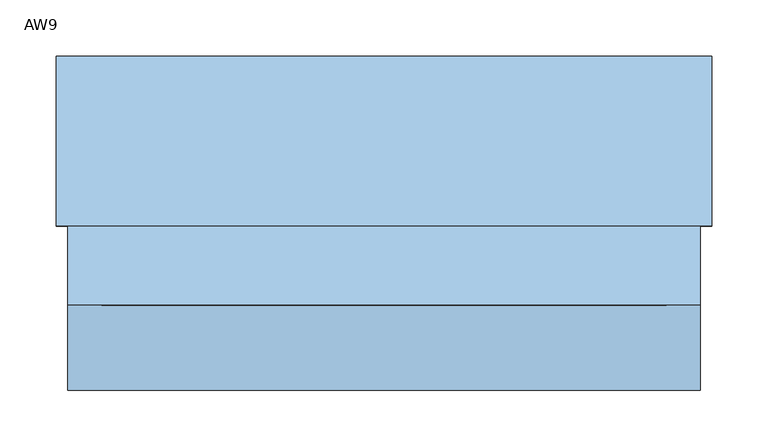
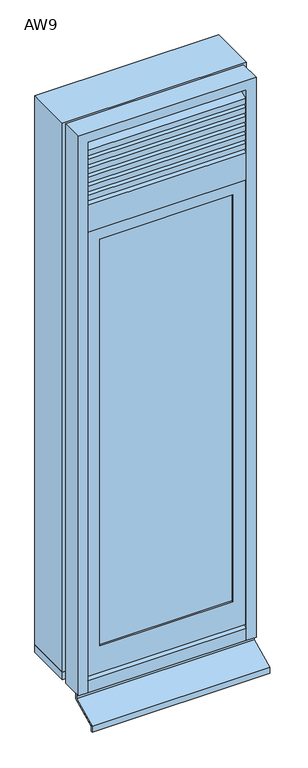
"""IFC4 building model written with IfcOpenShell, lengths in millimetres: window geometry, 営_段窓_縦辷出し/ガラリ : AW9."""

from ifc_helpers import new_model, si_unit, frame, origin, place, context, project, spatial, polyline, outline, extrude, source, transform, mapped, element, save


def aw9_1008a672(model_context):
    return source(origin(), model_context, "Body", "SweptSolid", [
        extrude(outline(polyline([(-20.0, 2823.2493654), (25.0, 2843.2493654), (25.0, 2855.0), (30.0, 2855.0), (30.0, 2840.0), (-15.0, 2820.0), (-15.0, 2805.0), (-20.0, 2805.0), (-20.0, 2823.2493654)])), frame((-250.0, 0.0, 0.0), z_axis=(1.0, 0.0, 0.0), x_axis=(0.0, 1.0, 0.0)), (0.0, 0.0, 1.0), 500.0),
        extrude(outline(polyline([(-20.0, 2793.2493654), (25.0, 2813.2493654), (25.0, 2825.0), (30.0, 2825.0), (30.0, 2810.0), (-15.0, 2790.0), (-15.0, 2775.0), (-20.0, 2775.0), (-20.0, 2793.2493654)])), frame((-250.0, 0.0, 0.0), z_axis=(1.0, 0.0, 0.0), x_axis=(0.0, 1.0, 0.0)), (0.0, 0.0, 1.0), 500.0),
        extrude(outline(polyline([(-20.0, 2763.2493654), (25.0, 2783.2493654), (25.0, 2795.0), (30.0, 2795.0), (30.0, 2780.0), (-15.0, 2760.0), (-15.0, 2745.0), (-20.0, 2745.0), (-20.0, 2763.2493654)])), frame((-250.0, 0.0, 0.0), z_axis=(1.0, 0.0, 0.0), x_axis=(0.0, 1.0, 0.0)), (0.0, 0.0, 1.0), 500.0),
        extrude(outline(polyline([(-20.0, 2733.2493654), (25.0, 2753.2493654), (25.0, 2765.0), (30.0, 2765.0), (30.0, 2750.0), (-15.0, 2730.0), (-15.0, 2715.0), (-20.0, 2715.0), (-20.0, 2733.2493654)])), frame((-250.0, 0.0, 0.0), z_axis=(1.0, 0.0, 0.0), x_axis=(0.0, 1.0, 0.0)), (0.0, 0.0, 1.0), 500.0),
        extrude(outline(polyline([(-20.0, 2853.2493654), (25.0, 2873.2493654), (25.0, 2885.0), (30.0, 2885.0), (30.0, 2870.0), (-15.0, 2850.0), (-15.0, 2835.0), (-20.0, 2835.0), (-20.0, 2853.2493654)])), frame((-250.0, 0.0, 0.0), z_axis=(1.0, 0.0, 0.0), x_axis=(0.0, 1.0, 0.0)), (0.0, 0.0, 1.0), 500.0),
        extrude(outline(polyline([(-20.0, 2703.2493654), (25.0, 2723.2493654), (25.0, 2735.0), (30.0, 2735.0), (30.0, 2720.0), (-15.0, 2700.0), (-15.0, 2685.0), (-20.0, 2685.0), (-20.0, 2703.2493654)])), frame((-250.0, 0.0, 0.0), z_axis=(1.0, 0.0, 0.0), x_axis=(0.0, 1.0, 0.0)), (0.0, 0.0, 1.0), 500.0),
        extrude(outline(polyline([(210.0, -10.0), (210.0, -15.0), (-210.0, -15.0), (-210.0, -10.0), (210.0, -10.0)])), frame((0.0, 0.0, 1190.0), z_axis=(0.0, 0.0, 1.0), x_axis=(1.0, 0.0, 0.0)), (0.0, 0.0, 1.0), 1355.0),
        extrude(outline(polyline([(2585.0, 250.0), (2585.0, -250.0), (1100.0, -250.0), (1100.0, 250.0), (2585.0, 250.0)]), holes=[polyline([(2545.0, 210.0), (1190.0, 210.0), (1190.0, -210.0), (2545.0, -210.0), (2545.0, 210.0)])]), frame((0.0, -20.0, 0.0), z_axis=(0.0, 1.0, 0.0), x_axis=(0.0, 0.0, 1.0)), (0.0, 0.0, 1.0), 30.0),
        extrude(outline(polyline([(290.0, 195.0), (290.0, 45.0), (-290.0, 45.0), (-290.0, 195.0), (290.0, 195.0)])), frame((0.0, 0.0, 1065.0), z_axis=(0.0, 0.0, 1.0), x_axis=(1.0, 0.0, 0.0)), (0.0, 0.0, 1.0), 25.0),
        extrude(outline(polyline([(-15.0, 1035.0), (-15.0, 1050.0), (-10.0, 1050.0), (-10.0, 1031.8269723), (-95.0014518, 991.8262891), (-95.0014518, 975.0), (-100.0, 975.0), (-100.0, 995.0), (-15.0, 1035.0)])), frame((-280.0, 0.0, 0.0), z_axis=(1.0, 0.0, 0.0), x_axis=(0.0, 1.0, 0.0)), (0.0, 0.0, 1.0), 560.0),
        extrude(outline(polyline([(1065.0, -265.0), (2895.0, -265.0), (2895.0, 265.0), (1065.0, 265.0), (1065.0, 290.0), (2920.0, 290.0), (2920.0, -290.0), (1065.0, -290.0), (1065.0, -265.0)])), frame((0.0, 45.0, 0.0), z_axis=(0.0, 1.0, 0.0), x_axis=(0.0, 0.0, 1.0)), (0.0, 0.0, 1.0), 150.0),
        extrude(outline(polyline([(1050.0, -250.0), (2885.0, -250.0), (2885.0, 250.0), (1050.0, 250.0), (1050.0, 280.0), (2915.0, 280.0), (2915.0, -280.0), (1050.0, -280.0), (1050.0, -250.0)])), frame((0.0, -25.0, 0.0), z_axis=(0.0, 1.0, 0.0), x_axis=(0.0, 0.0, 1.0)), (0.0, 0.0, 1.0), 70.0),
        extrude(outline(polyline([(45.0, 1050.0), (-25.0, 1050.0), (-25.0, 1090.6666667), (45.0, 1100.0), (45.0, 1050.0)])), frame((-250.0, 0.0, 0.0), z_axis=(1.0, 0.0, 0.0), x_axis=(0.0, 1.0, 0.0)), (0.0, 0.0, 1.0), 500.0),
        extrude(outline(polyline([(-25.0, 2585.0), (-25.0, 2675.0), (45.0, 2685.0), (45.0, 2585.0), (-25.0, 2585.0)])), frame((-250.0, 0.0, 0.0), z_axis=(1.0, 0.0, 0.0), x_axis=(0.0, 1.0, 0.0)), (0.0, 0.0, 1.0), 500.0),
    ])


if __name__ == "__main__":
    model = new_model("IFC4")
    model_context = context("Model", 3, world=origin())
    ifc_project = project(units=[si_unit("LENGTHUNIT", "METRE", prefix="MILLI")], contexts=[model_context])
    site = spatial("IfcSite", under=ifc_project)
    building = spatial("IfcBuilding", under=site)
    placement = place(None, origin())
    aw9_shape = aw9_1008a672(model_context)
    element("IfcWindow", 1, ObjectType="営_段窓_縦辷出し/ガラリ : AW9", at=placement, inside=building, context=model_context, shape_type="MappedRepresentation", body=[
        mapped(aw9_shape, transform((0.0, 0.0, 0.0), x_axis=(1.0, 0.0, 0.0), y_axis=(0.0, 1.0, 0.0), z_axis=(0.0, 0.0, 1.0))),
    ])
    save(model, "model.ifc")
